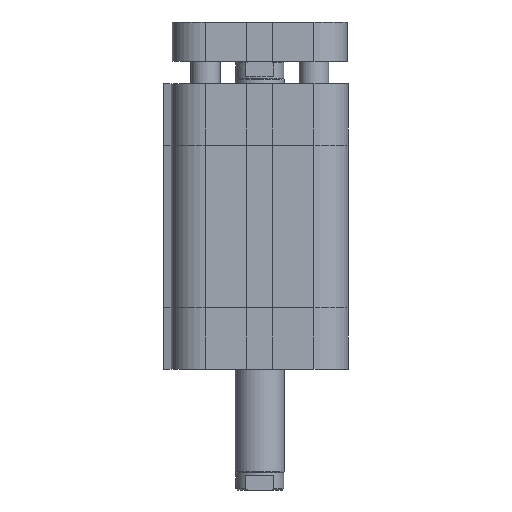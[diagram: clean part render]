
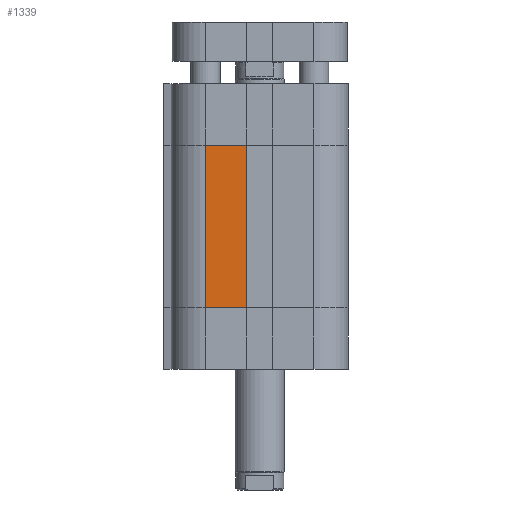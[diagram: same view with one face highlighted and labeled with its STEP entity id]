
A CAD part, left-side view. The second image highlights one B-rep face of the part: STEP entity #1339.
In plain terms, the highlighted planar face has unit normal (-1, 0, 0).
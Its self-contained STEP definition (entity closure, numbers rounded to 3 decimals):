
#1250=CARTESIAN_POINT('',(-18.,11.0,12.5));
#1251=VERTEX_POINT('',#1250);
#1259=CARTESIAN_POINT('',(-18.,11.0,45.5));
#1260=VERTEX_POINT('',#1259);
#1261=CARTESIAN_POINT('',(-18.,11.0,12.5));
#1262=DIRECTION('',(0.0,0.0,1.0));
#1263=VECTOR('',#1262,33.);
#1264=LINE('',#1261,#1263);
#1265=EDGE_CURVE('',#1251,#1260,#1264,.T.);
#1309=CARTESIAN_POINT('',(-18.0,2.6,0.0));
#1310=DIRECTION('',(-1.0,0.0,0.0));
#1311=DIRECTION('',(0.0,0.0,1.0));
#1312=AXIS2_PLACEMENT_3D('',#1309,#1310,#1311);
#1313=PLANE('',#1312);
#1314=CARTESIAN_POINT('',(-18.0,2.6,12.5));
#1315=VERTEX_POINT('',#1314);
#1316=CARTESIAN_POINT('',(-18.,11.0,12.5));
#1317=DIRECTION('',(0.0,-1.0,0.0));
#1318=VECTOR('',#1317,8.4);
#1319=LINE('',#1316,#1318);
#1320=EDGE_CURVE('',#1251,#1315,#1319,.T.);
#1321=ORIENTED_EDGE('',*,*,#1320,.T.);
#1322=CARTESIAN_POINT('',(-18.0,2.6,45.5));
#1323=VERTEX_POINT('',#1322);
#1324=CARTESIAN_POINT('',(-18.0,2.6,12.5));
#1325=DIRECTION('',(0.0,0.0,1.0));
#1326=VECTOR('',#1325,33.);
#1327=LINE('',#1324,#1326);
#1328=EDGE_CURVE('',#1315,#1323,#1327,.T.);
#1329=ORIENTED_EDGE('',*,*,#1328,.T.);
#1330=CARTESIAN_POINT('',(-18.,11.0,45.5));
#1331=DIRECTION('',(0.0,-1.0,0.0));
#1332=VECTOR('',#1331,8.4);
#1333=LINE('',#1330,#1332);
#1334=EDGE_CURVE('',#1260,#1323,#1333,.T.);
#1335=ORIENTED_EDGE('',*,*,#1334,.F.);
#1336=ORIENTED_EDGE('',*,*,#1265,.F.);
#1337=EDGE_LOOP('',(#1321,#1329,#1335,#1336));
#1338=FACE_OUTER_BOUND('',#1337,.T.);
#1339=ADVANCED_FACE('',(#1338),#1313,.T.);
